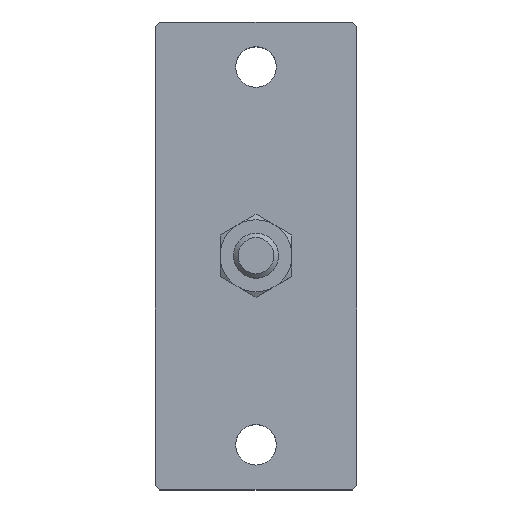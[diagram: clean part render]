
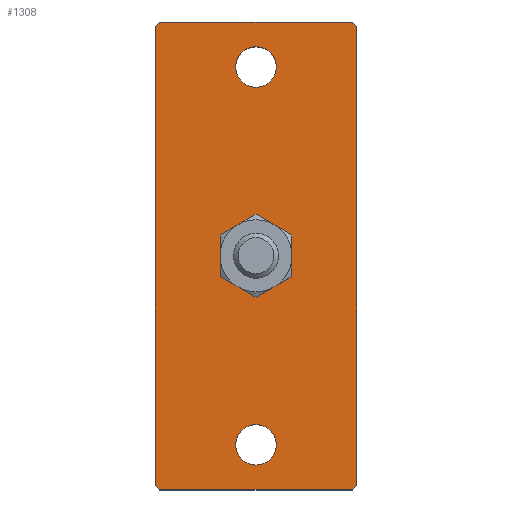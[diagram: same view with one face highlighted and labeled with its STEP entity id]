
A CAD part, top view. The second image highlights one B-rep face of the part: STEP entity #1308.
In plain terms, the highlighted planar face has unit normal (0, 0, 1).
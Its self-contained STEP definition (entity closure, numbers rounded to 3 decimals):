
#810=CARTESIAN_POINT('',(10.417,25.5,12.));
#811=VERTEX_POINT('',#810);
#820=CARTESIAN_POINT('',(10.417,-25.5,12.));
#821=VERTEX_POINT('',#820);
#822=CARTESIAN_POINT('',(10.417,25.5,12.));
#823=DIRECTION('',(0.0,-1.0,0.0));
#824=VECTOR('',#823,51.);
#825=LINE('',#822,#824);
#826=EDGE_CURVE('',#811,#821,#825,.T.);
#1088=CARTESIAN_POINT('',(-11.983,25.5,12.));
#1089=VERTEX_POINT('',#1088);
#1090=CARTESIAN_POINT('',(-11.483,26.0,12.));
#1091=VERTEX_POINT('',#1090);
#1092=CARTESIAN_POINT('',(-11.983,25.5,12.));
#1093=DIRECTION('',(0.707,0.707,0.0));
#1094=VECTOR('',#1093,0.707);
#1095=LINE('',#1092,#1094);
#1096=EDGE_CURVE('',#1089,#1091,#1095,.T.);
#1211=CARTESIAN_POINT('',(9.917,26.0,12.));
#1212=VERTEX_POINT('',#1211);
#1213=CARTESIAN_POINT('',(-11.483,26.0,12.));
#1214=DIRECTION('',(1.0,0.0,0.0));
#1215=VECTOR('',#1214,21.4);
#1216=LINE('',#1213,#1215);
#1217=EDGE_CURVE('',#1091,#1212,#1216,.T.);
#1229=CARTESIAN_POINT('',(-0.783,0.,12.));
#1230=DIRECTION('',(0.0,0.0,1.0));
#1231=DIRECTION('',(1.0,0.0,0.0));
#1232=AXIS2_PLACEMENT_3D('',#1229,#1230,#1231);
#1233=PLANE('',#1232);
#1234=ORIENTED_EDGE('',*,*,#1096,.F.);
#1235=CARTESIAN_POINT('',(-11.983,-25.5,12.));
#1236=VERTEX_POINT('',#1235);
#1237=CARTESIAN_POINT('',(-11.983,-25.5,12.));
#1238=DIRECTION('',(0.0,1.0,0.0));
#1239=VECTOR('',#1238,51.);
#1240=LINE('',#1237,#1239);
#1241=EDGE_CURVE('',#1236,#1089,#1240,.T.);
#1242=ORIENTED_EDGE('',*,*,#1241,.F.);
#1243=CARTESIAN_POINT('',(-11.483,-26.0,12.));
#1244=VERTEX_POINT('',#1243);
#1245=CARTESIAN_POINT('',(-11.483,-26.0,12.));
#1246=DIRECTION('',(-0.707,0.707,0.0));
#1247=VECTOR('',#1246,0.707);
#1248=LINE('',#1245,#1247);
#1249=EDGE_CURVE('',#1244,#1236,#1248,.T.);
#1250=ORIENTED_EDGE('',*,*,#1249,.F.);
#1251=CARTESIAN_POINT('',(9.917,-26.0,12.));
#1252=VERTEX_POINT('',#1251);
#1253=CARTESIAN_POINT('',(9.917,-26.0,12.));
#1254=DIRECTION('',(-1.0,0.0,0.0));
#1255=VECTOR('',#1254,21.4);
#1256=LINE('',#1253,#1255);
#1257=EDGE_CURVE('',#1252,#1244,#1256,.T.);
#1258=ORIENTED_EDGE('',*,*,#1257,.F.);
#1259=CARTESIAN_POINT('',(10.417,-25.5,12.));
#1260=DIRECTION('',(-0.707,-0.707,0.0));
#1261=VECTOR('',#1260,0.707);
#1262=LINE('',#1259,#1261);
#1263=EDGE_CURVE('',#821,#1252,#1262,.T.);
#1264=ORIENTED_EDGE('',*,*,#1263,.F.);
#1265=ORIENTED_EDGE('',*,*,#826,.F.);
#1266=CARTESIAN_POINT('',(9.917,26.0,12.));
#1267=DIRECTION('',(0.707,-0.707,0.0));
#1268=VECTOR('',#1267,0.707);
#1269=LINE('',#1266,#1268);
#1270=EDGE_CURVE('',#1212,#811,#1269,.T.);
#1271=ORIENTED_EDGE('',*,*,#1270,.F.);
#1272=ORIENTED_EDGE('',*,*,#1217,.F.);
#1273=EDGE_LOOP('',(#1234,#1242,#1250,#1258,#1264,#1265,#1271,#1272));
#1274=FACE_OUTER_BOUND('',#1273,.T.);
#1275=CARTESIAN_POINT('',(1.467,21.0,12.));
#1276=VERTEX_POINT('',#1275);
#1277=CARTESIAN_POINT('',(-0.783,21.0,12.));
#1278=DIRECTION('',(0.0,0.0,-1.0));
#1279=DIRECTION('',(-1.0,0.0,0.0));
#1280=AXIS2_PLACEMENT_3D('',#1277,#1278,#1279);
#1281=CIRCLE('',#1280,2.25);
#1282=EDGE_CURVE('',#1276,#1276,#1281,.T.);
#1283=ORIENTED_EDGE('',*,*,#1282,.T.);
#1284=EDGE_LOOP('',(#1283));
#1285=FACE_BOUND('',#1284,.T.);
#1286=CARTESIAN_POINT('',(1.467,-21.0,12.));
#1287=VERTEX_POINT('',#1286);
#1288=CARTESIAN_POINT('',(-0.783,-21.0,12.));
#1289=DIRECTION('',(0.0,0.0,-1.0));
#1290=DIRECTION('',(-1.0,0.0,0.0));
#1291=AXIS2_PLACEMENT_3D('',#1288,#1289,#1290);
#1292=CIRCLE('',#1291,2.25);
#1293=EDGE_CURVE('',#1287,#1287,#1292,.T.);
#1294=ORIENTED_EDGE('',*,*,#1293,.T.);
#1295=EDGE_LOOP('',(#1294));
#1296=FACE_BOUND('',#1295,.T.);
#1297=CARTESIAN_POINT('',(-0.783,3.,12.));
#1298=VERTEX_POINT('',#1297);
#1299=CARTESIAN_POINT('',(-0.783,0.0,12.));
#1300=DIRECTION('',(0.0,0.0,-1.0));
#1301=DIRECTION('',(0.0,1.0,0.0));
#1302=AXIS2_PLACEMENT_3D('',#1299,#1300,#1301);
#1303=CIRCLE('',#1302,3.);
#1304=EDGE_CURVE('',#1298,#1298,#1303,.T.);
#1305=ORIENTED_EDGE('',*,*,#1304,.T.);
#1306=EDGE_LOOP('',(#1305));
#1307=FACE_BOUND('',#1306,.T.);
#1308=ADVANCED_FACE('',(#1274,#1285,#1296,#1307),#1233,.T.);
